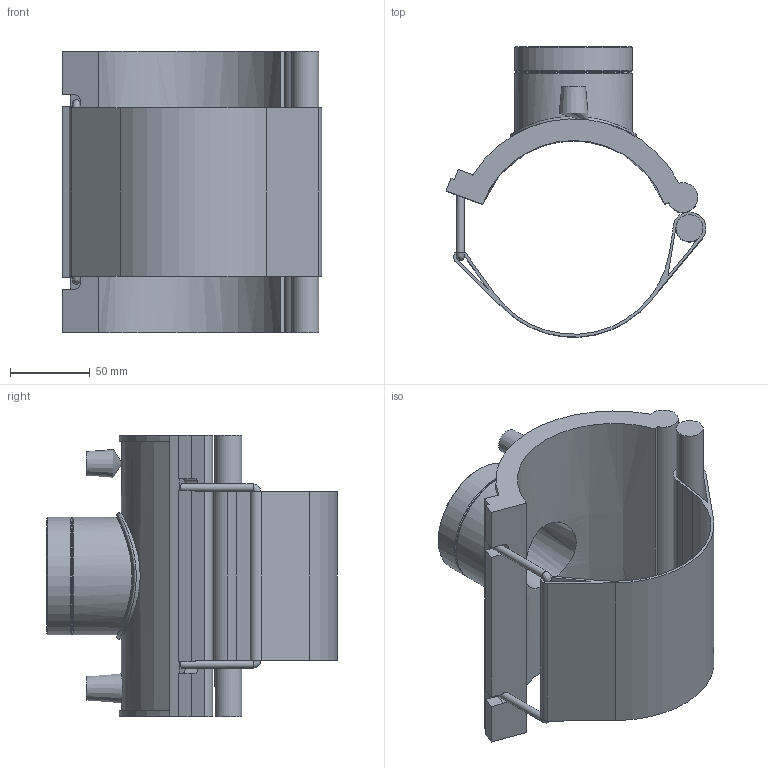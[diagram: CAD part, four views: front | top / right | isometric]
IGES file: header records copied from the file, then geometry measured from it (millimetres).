
Global section: file name: 5938D00304070.ipt; native system: Autodesk Inventor 2019; preprocessor: unknown; author: KIM; date: 20210830.101131; units: inch
Bounding box: 162.55 x 181.9 x 176.02 mm (x, y, z)
Volume: 603230 mm3; surface area: 169053.4 mm2
Topology: 1 solids, 2 shells, 80 faces, 204 edges, 132 vertices
Faces by surface type: plane 44, cylinder 19, revolution 11, cone 5, bspline 1
Full cylindrical faces by diameter (mm): 4 x2, 4.852 x2, 16.889 x1, 72.653 x1, 73.653 x2, 79.318 x1
